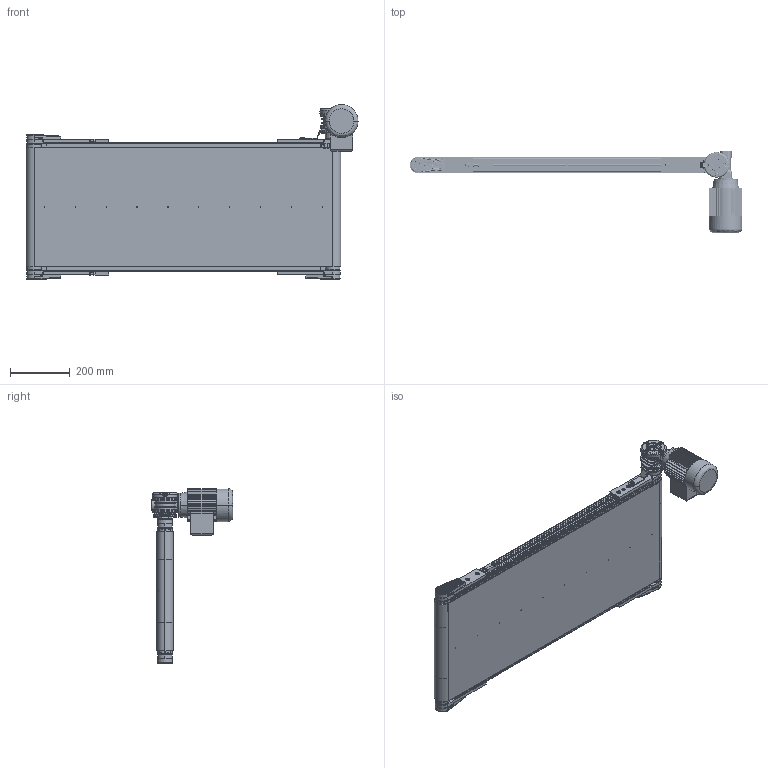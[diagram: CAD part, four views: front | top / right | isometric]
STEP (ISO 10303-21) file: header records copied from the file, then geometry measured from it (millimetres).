
FILE_DESCRIPTION (( 'STEP AP203' ), '1' );
FILE_NAME ('NASTRO_RETTILINEO_TAPPETO.step', '2026-06-04T07:06:39', ( 'Utente Windows' ), ( '' ), 'SwSTEP 2.0', 'SolidWorks 2024', '' );
FILE_SCHEMA (( 'CONFIG_CONTROL_DESIGN' ));
Length unit declared in the file: millimetre
Products named in the file (44): RONDELLE FASCIA LARGA UNI 6593_5.4x20 UNI 6593; VITI TE UNI 5739_M6x16 UNI 5739; VITI TCEI UNI 5931_M4x25 UNI 5931; 084.811.001; 14UNI7435; LAMIERA_STANDARD; VITI TCEI UNI 5931_M6x12 UNI 5931; VITI TSEI UNI 5933_M4x10 UNI 5933; VITI TSEI UNI 5933_M5x12 UNI 5933; BLOCCO_BRACCIO_CH03P_VF30P; NASTRO_RETTILINEO_TAPPETO; 084.802.061; 084.808.012; BLOCCO_PERNO_50_RINVIO; 084.803.018; 084.802.062; CH03P_DX; CHIAVETTE_A 5x5x40 UNI 6604-69; BLOCCO_TRAINO_50_STANDARD_30_DX; BLOCCO_PERNO_50_30; 084.807.003_084.807.003<A macchina>; 084.807.002_084.807.002; 084.802.008; 084.802.071; TELAIO_50_STANDARD_Default<A macchina>; VITI TSEI UNI 5933 INOX_0412UNI5933A2; 084.303.001; 084.302.000 DADI ALUSIC 13x13-1_084.302.007; 084.802.017_084.802.017; CHIAVETTE_A 5x5x20 UNI 6604-69; 084.301.000 VITI ALUSIC_084.301.003; 084.302.000 DADI ALUSIC 13x13-1_084.302.004; 084.802.065_Default<A macchina>; VITE_DADO_M5X12; 084.302.000 DADI ALUSIC 13x13_084.302.004; 084.810.001; VITE_RONDELLA_M8X20; BLOCCO_TRAINO_50_STANDARD; BLOCCO_RINVIO_50_STANDARD; TAPPETO_STANDARD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
Assembly tree (80 placements, depth 4):
  NASTRO_RETTILINEO_TAPPETO
    TAPPETO_STANDARD
    TELAIO_50_STANDARD_Default<A macchina>
    LAMIERA_STANDARD
    RULLO_50_Default<A macchina>  x2
    BLOCCO_PERNO_50_30
      084.810.001
      084.811.001
      RONDELLE FASCIA LARGA UNI 6593_5.4x20 UNI 6593
      084.301.000 VITI ALUSIC_084.301.009
      CHIAVETTE_A 5x5x40 UNI 6604-69
      CHIAVETTE_A 5x5x20 UNI 6604-69
      14UNI7435
    BLOCCO_TRAINO_50_STANDARD_30_DX
      084.807.003_084.807.003<A macchina>
      084.802.017_084.802.017
      084.301.000 VITI ALUSIC_084.301.003  x2
      084.302.000 DADI ALUSIC 13x13-1_084.302.004  x2
      BLOCCO_BRACCIO_CH03P_VF30P
        084.808.012
        084.802.062
        0820ISO2342
        084.802.061
        VITI TE UNI 5739_M6x16 UNI 5739  x4
        084.803.018
        VITI TCEI UNI 5931_M6x12 UNI 5931  x4
      084.802.065_Default<A macchina>
      VITI TCEI UNI 5931_M4x25 UNI 5931  x2
    BLOCCO_PERNO_50_RINVIO  x3
      084.811.004
      084.810.001
    BLOCCO_TRAINO_50_STANDARD
      084.807.002_084.807.002
      084.802.017_084.802.017
      084.301.000 VITI ALUSIC_084.301.003  x2
      084.302.000 DADI ALUSIC 13x13-1_084.302.004  x2
      084.802.071
      VITI TSEI UNI 5933 INOX_0412UNI5933A2  x2
    BLOCCO_RINVIO_50_STANDARD  x2
      084.807.002_084.807.002
      084.802.017_084.802.017
      084.802.008
      084.301.000 VITI ALUSIC_084.301.003
      084.302.000 DADI ALUSIC 13x13_084.302.004
      VITI TSEI UNI 5933_M4x10 UNI 5933
      084.802.071
    VITE_RONDELLA_M8X20  x3
      084.303.001
      084.301.000 VITI ALUSIC_084.301.003
    VITE_DADO_M5X12  x6
      084.302.000 DADI ALUSIC 13x13-1_084.302.007
      VITI TSEI UNI 5933_M5x12 UNI 5933
    CH03P_DX
Bounding box: 1112 x 273 x 585 mm (x, y, z)
Volume: 7140503 mm3; surface area: 5145863 mm2
Topology: 131 solids, 137 shells, 6124 faces, 15793 edges, 10099 vertices
Faces by surface type: plane 3052, cylinder 1667, cone 541, bspline 509, torus 317, sphere 38
Entity records: 136677 total; most frequent: CARTESIAN_POINT 40421, ORIENTED_EDGE 19664, DIRECTION 18047, EDGE_CURVE 9832, VERTEX_POINT 6320, AXIS2_PLACEMENT_3D 6206, VECTOR 5635, LINE 5635
